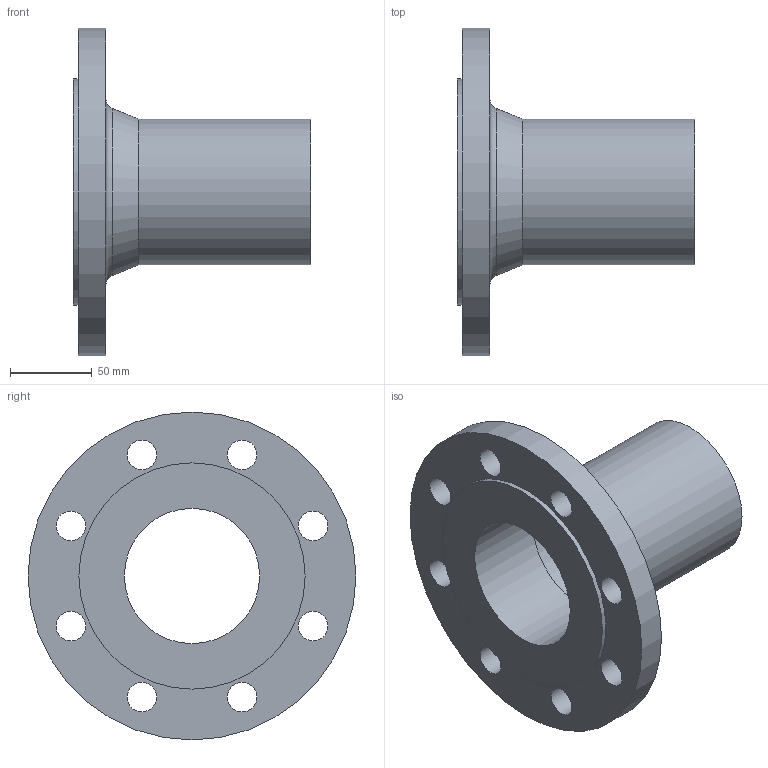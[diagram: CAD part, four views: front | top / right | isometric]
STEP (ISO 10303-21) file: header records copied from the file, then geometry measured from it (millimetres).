
FILE_DESCRIPTION(/* description */ (''),/* implementation_level */ '2;1');
FILE_NAME(/* name */ 'C:\Users\LK_9K\Desktop\STRAUB FLANSCHADAPTER DN80.stp',/* time_stamp */ '2021-04-12T08:29:29+02:00',/* author */ ('LK_9K'),/* organization */ (''),/* preprocessor_version */ 'ST-DEVELOPER v18.1',/* originating_system */ 'Autodesk Inventor 2020',/* authorisation */ '');
FILE_SCHEMA (('AUTOMOTIVE_DESIGN { 1 0 10303 214 3 1 1 }'));
Length unit declared in the file: millimetre
Products named in the file (1): Bauteil1
Bounding box: 145 x 200 x 200 mm (x, y, z)
Volume: 539955.8 mm3; surface area: 139164.4 mm2
Topology: 1 solids, 1 shells, 20 faces, 62 edges, 47 vertices
Faces by surface type: cylinder 13, plane 5, torus 1, cone 1
Full cylindrical faces by diameter (mm): 18 x8, 82.5 x1, 84.9 x1, 88.9 x1, 138 x1, 200 x1
Entity records: 827 total; most frequent: DIRECTION 152, CARTESIAN_POINT 130, ORIENTED_EDGE 124, AXIS2_PLACEMENT_3D 69, EDGE_CURVE 62, CIRCLE 48, VERTEX_POINT 47, EDGE_LOOP 41
